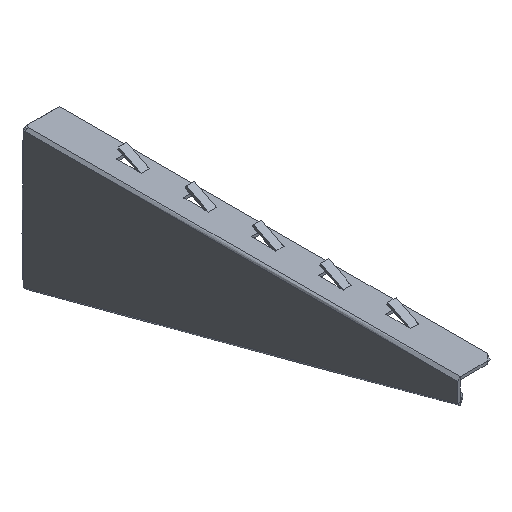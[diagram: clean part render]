
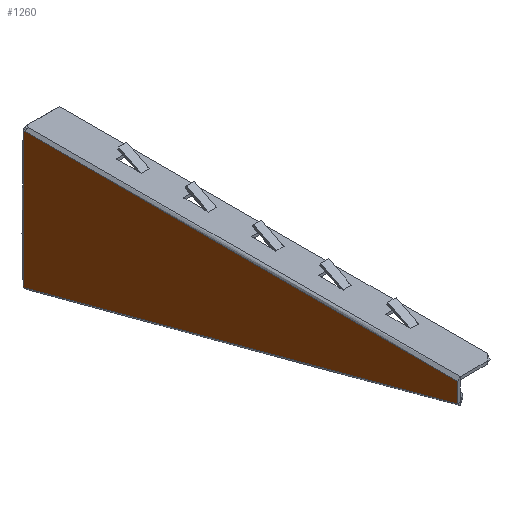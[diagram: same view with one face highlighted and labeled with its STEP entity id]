
A CAD part, isometric view. The second image highlights one B-rep face of the part: STEP entity #1260.
In plain terms, the highlighted planar face has unit normal (-1, 0, 0).
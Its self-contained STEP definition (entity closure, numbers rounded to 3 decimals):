
#166=PLANE($,#3334);
#1260=ADVANCED_FACE($,(#1352),#166,.T.);
#1352=FACE_OUTER_BOUND($,#1458,.T.);
#1458=EDGE_LOOP($,(#1864,#1865,#1866,#1867,#1868,#1869));
#1864=ORIENTED_EDGE($,*,*,#2307,.F.);
#1865=ORIENTED_EDGE($,*,*,#2304,.F.);
#1866=ORIENTED_EDGE($,*,*,#2305,.F.);
#1867=ORIENTED_EDGE($,*,*,#2306,.F.);
#1868=ORIENTED_EDGE($,*,*,#2309,.F.);
#1869=ORIENTED_EDGE($,*,*,#2308,.F.);
#2304=EDGE_CURVE($,#2744,#2747,#3137,.T.);
#2305=EDGE_CURVE($,#2745,#2744,#3138,.T.);
#2306=EDGE_CURVE($,#2746,#2745,#3139,.T.);
#2307=EDGE_CURVE($,#2747,#2748,#3140,.T.);
#2308=EDGE_CURVE($,#2748,#2749,#3141,.T.);
#2309=EDGE_CURVE($,#2749,#2746,#3142,.T.);
#2744=VERTEX_POINT($,#5791);
#2745=VERTEX_POINT($,#5792);
#2746=VERTEX_POINT($,#5793);
#2747=VERTEX_POINT($,#5794);
#2748=VERTEX_POINT($,#5795);
#2749=VERTEX_POINT($,#5796);
#3137=B_SPLINE_CURVE_WITH_KNOTS($,1,(#5774,#5775),.UNSPECIFIED.,.F.,.F.,
(2,2),(0.,0.999),.UNSPECIFIED.);
#3138=B_SPLINE_CURVE_WITH_KNOTS($,1,(#5776,#5777),.UNSPECIFIED.,.F.,.F.,
(2,2),(438.485,772.612),.UNSPECIFIED.);
#3139=B_SPLINE_CURVE_WITH_KNOTS($,1,(#5778,#5779),.UNSPECIFIED.,.F.,.F.,
(2,2),(423.999,438.485),.UNSPECIFIED.);
#3140=B_SPLINE_CURVE_WITH_KNOTS($,1,(#5780,#5781),.UNSPECIFIED.,.F.,.F.,
(2,2),(0.999,99.535),.UNSPECIFIED.);
#3141=B_SPLINE_CURVE_WITH_KNOTS($,3,(#5782,#5783,#5784,#5785,#5786,#5787),
.UNSPECIFIED.,.F.,.F.,(4,2,4),(-2.094,-1.047,0.),.UNSPECIFIED.);
#3142=B_SPLINE_CURVE_WITH_KNOTS($,1,(#5788,#5789),.UNSPECIFIED.,.F.,.F.,
(2,2),(102.463,423.999),.UNSPECIFIED.);
#3334=AXIS2_PLACEMENT_3D($,#5790,#3426,$);
#3426=DIRECTION($,(-1.,0.,0.));
#5774=CARTESIAN_POINT($,(-11.5,-2.228,-102.965));
#5775=CARTESIAN_POINT($,(-11.5,-1.969,-102.));
#5776=CARTESIAN_POINT($,(-11.5,-324.969,-16.486));
#5777=CARTESIAN_POINT($,(-11.5,-2.228,-102.965));
#5778=CARTESIAN_POINT($,(-11.5,-324.969,-2.));
#5779=CARTESIAN_POINT($,(-11.5,-324.969,-16.486));
#5780=CARTESIAN_POINT($,(-11.5,-1.969,-102.));
#5781=CARTESIAN_POINT($,(-11.5,-1.969,-3.464));
#5782=CARTESIAN_POINT($,(-11.5,-1.969,-3.464));
#5783=CARTESIAN_POINT($,(-11.5,-2.272,-3.289));
#5784=CARTESIAN_POINT($,(-11.5,-2.55,-3.076));
#5785=CARTESIAN_POINT($,(-11.5,-3.045,-2.581));
#5786=CARTESIAN_POINT($,(-11.5,-3.258,-2.303));
#5787=CARTESIAN_POINT($,(-11.5,-3.433,-2.));
#5788=CARTESIAN_POINT($,(-11.5,-3.433,-2.));
#5789=CARTESIAN_POINT($,(-11.5,-324.969,-2.));
#5790=CARTESIAN_POINT($,(-11.5,-324.969,-102.965));
#5791=CARTESIAN_POINT($,(-11.5,-2.228,-102.965));
#5792=CARTESIAN_POINT($,(-11.5,-324.969,-16.486));
#5793=CARTESIAN_POINT($,(-11.5,-324.969,-2.));
#5794=CARTESIAN_POINT($,(-11.5,-1.969,-102.));
#5795=CARTESIAN_POINT($,(-11.5,-1.969,-3.464));
#5796=CARTESIAN_POINT($,(-11.5,-3.433,-2.));
